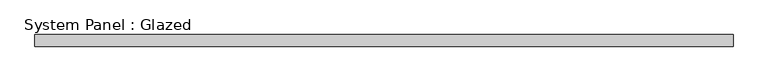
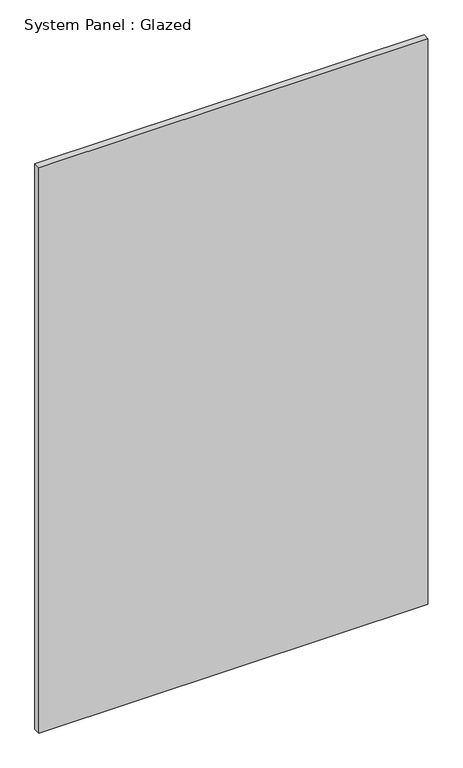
"""IFC4 building model written with IfcOpenShell, lengths in millimetres: plate geometry, System Panel : Glazed."""

from ifc_helpers import new_model, si_unit, origin, origin_with_axes, place, context, project, spatial, polyline, outline, extrude, source, transform, mapped, element, save


def system_panel_glazed_2c1124f0(model_context):
    return source(origin(), model_context, "Body", "SweptSolid", [
        extrude(outline(polyline([(724.25, 24.5), (-724.25, 24.5), (-724.25, 49.5), (724.25, 49.5), (724.25, 24.5)])), origin_with_axes(), (0.0, 0.0, 1.0), 2225.0),
    ])


if __name__ == "__main__":
    model = new_model("IFC4")
    model_context = context("Model", 3, world=origin())
    ifc_project = project(units=[si_unit("LENGTHUNIT", "METRE", prefix="MILLI")], contexts=[model_context])
    site = spatial("IfcSite", under=ifc_project)
    building = spatial("IfcBuilding", under=site)
    placement = place(None, origin())
    system_panel_glazed_shape = system_panel_glazed_2c1124f0(model_context)
    element("IfcPlate", 1, ObjectType="System Panel : Glazed", at=placement, inside=building, context=model_context, shape_type="MappedRepresentation", body=[
        mapped(system_panel_glazed_shape, transform((0.0, 0.0, 0.0), x_axis=(1.0, 0.0, 0.0), y_axis=(0.0, 1.0, 0.0), z_axis=(0.0, 0.0, 1.0))),
    ])
    save(model, "model.ifc")
